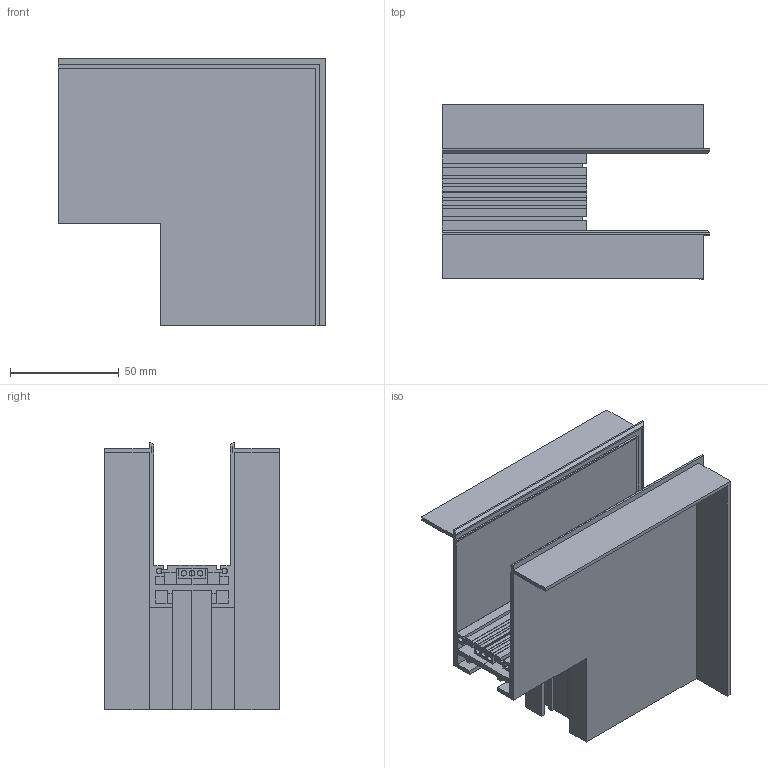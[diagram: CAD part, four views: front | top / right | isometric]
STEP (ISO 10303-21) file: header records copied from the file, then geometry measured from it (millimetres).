
FILE_DESCRIPTION(/* description */ (''),/* implementation_level */ '2;1');
FILE_NAME(/* name */ 'C:\Users\Franco Sartori E\Documents\FARO\DUPLICADO\Modelos\01_Digitalizados\PRIORIZACION 2D\1_NESO\03_Publicación\5020221302, 5020221302D_exCR_NESO_T - Vista 3D - Export.stp',/* time_stamp */ '2021-01-21T10:26:22+01:00',/* author */ ('Franco Sartori E'),/* organization */ (''),/* preprocessor_version */ 'ST-DEVELOPER v18.1',/* originating_system */ 'AutoCAD Mechanical',/* authorisation */ '');
FILE_SCHEMA (('AUTOMOTIVE_DESIGN { 1 0 10303 214 3 1 1 }'));
Length unit declared in the file: millimetre
Products named in the file (2): Product; 5020221302_ 5020221302D - LAMP-514914-Export
Assembly tree (1 placements, depth 2):
  Product
    5020221302_ 5020221302D - LAMP-514914-Export
Bounding box: 123 x 80 x 123 mm (x, y, z)
Volume: 94350.5 mm3; surface area: 99154.5 mm2
Topology: 5 solids, 5 shells, 204 faces, 574 edges, 380 vertices
Faces by surface type: plane 188, cylinder 16
Entity records: 6536 total; most frequent: CARTESIAN_POINT 1161, ORIENTED_EDGE 1148, DIRECTION 1020, EDGE_CURVE 574, LINE 542, VECTOR 542, VERTEX_POINT 380, AXIS2_PLACEMENT_3D 239
